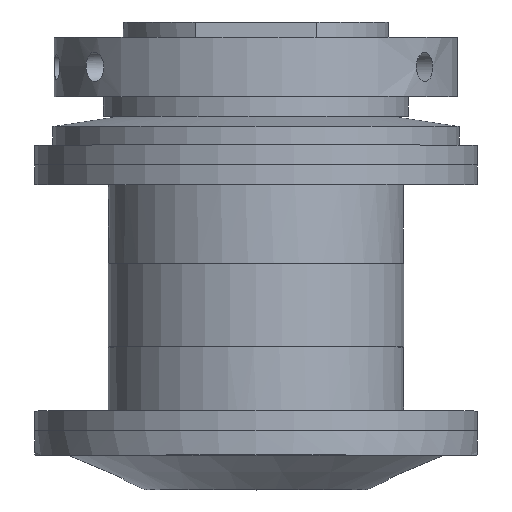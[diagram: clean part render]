
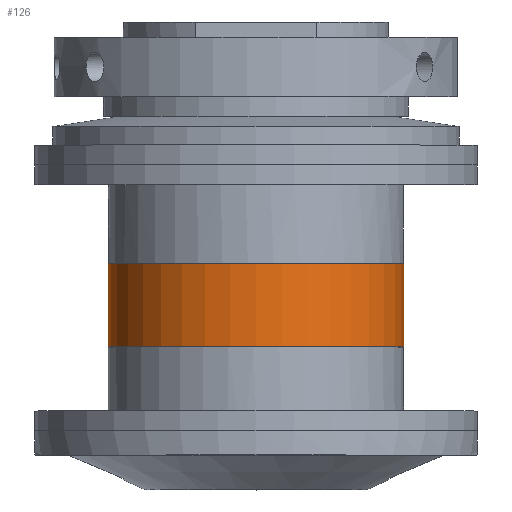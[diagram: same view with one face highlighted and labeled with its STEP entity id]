
A CAD part, top view. The second image highlights one B-rep face of the part: STEP entity #126.
In plain terms, the highlighted cylindrical face has radius 30 mm (diameter 60 mm), a full revolution.
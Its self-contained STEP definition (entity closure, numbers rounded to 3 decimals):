
#126 = ADVANCED_FACE( '', ( #422, #423 ), #424, .T. );
#422 = FACE_OUTER_BOUND( '', #851, .T. );
#423 = FACE_OUTER_BOUND( '', #852, .T. );
#424 = CYLINDRICAL_SURFACE( '', #853, 30. );
#851 = EDGE_LOOP( '', ( #1363 ) );
#852 = EDGE_LOOP( '', ( #1364 ) );
#853 = AXIS2_PLACEMENT_3D( '', #1365, #1366, #1367 );
#1363 = ORIENTED_EDGE( '', *, *, #2155, .T. );
#1364 = ORIENTED_EDGE( '', *, *, #2156, .T. );
#1365 = CARTESIAN_POINT( '', ( 0., 22.01, 0. ) );
#1366 = DIRECTION( '', ( 0., -1., 0. ) );
#1367 = DIRECTION( '', ( 0., 0., -1. ) );
#2155 = EDGE_CURVE( '', #2474, #2474, #2475, .F. );
#2156 = EDGE_CURVE( '', #2476, #2476, #2477, .T. );
#2474 = VERTEX_POINT( '', #2932 );
#2475 = CIRCLE( '', #2933, 30. );
#2476 = VERTEX_POINT( '', #2934 );
#2477 = CIRCLE( '', #2935, 30. );
#2932 = CARTESIAN_POINT( '', ( 0., 39.01, -30. ) );
#2933 = AXIS2_PLACEMENT_3D( '', #3942, #3943, #3944 );
#2934 = CARTESIAN_POINT( '', ( 0., 22.01, -30. ) );
#2935 = AXIS2_PLACEMENT_3D( '', #3945, #3946, #3947 );
#3942 = CARTESIAN_POINT( '', ( 0., 39.01, 0. ) );
#3943 = DIRECTION( '', ( 0., 1., 0. ) );
#3944 = DIRECTION( '', ( 0., 0., -1. ) );
#3945 = CARTESIAN_POINT( '', ( 0., 22.01, 0. ) );
#3946 = DIRECTION( '', ( 0., 1., 0. ) );
#3947 = DIRECTION( '', ( 0., 0., -1. ) );
